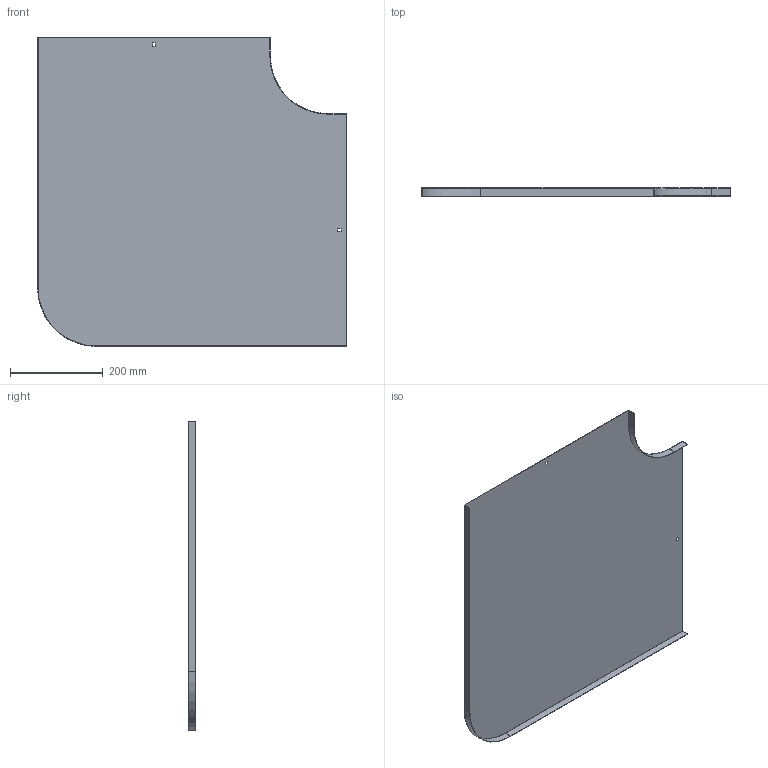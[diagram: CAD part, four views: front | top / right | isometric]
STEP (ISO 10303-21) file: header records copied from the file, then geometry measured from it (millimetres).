
FILE_DESCRIPTION (( 'STEP AP214' ), '1' );
FILE_NAME ('OP9_500.step', '2025-07-16T09:15:20', ( '' ), ( '' ), 'SwSTEP 2.0', 'SolidWorks 2023', '' );
FILE_SCHEMA (( 'AUTOMOTIVE_DESIGN' ));
Length unit declared in the file: millimetre
Products named in the file (1): OP9_500
Bounding box: 666 x 17 x 666 mm (x, y, z)
Volume: 441311.9 mm3; surface area: 885296.5 mm2
Topology: 1 solids, 1 shells, 26 faces, 72 edges, 48 vertices
Faces by surface type: plane 22, cylinder 4
Entity records: 855 total; most frequent: CARTESIAN_POINT 147, ORIENTED_EDGE 144, DIRECTION 134, EDGE_CURVE 72, LINE 64, VECTOR 64, VERTEX_POINT 48, AXIS2_PLACEMENT_3D 35
